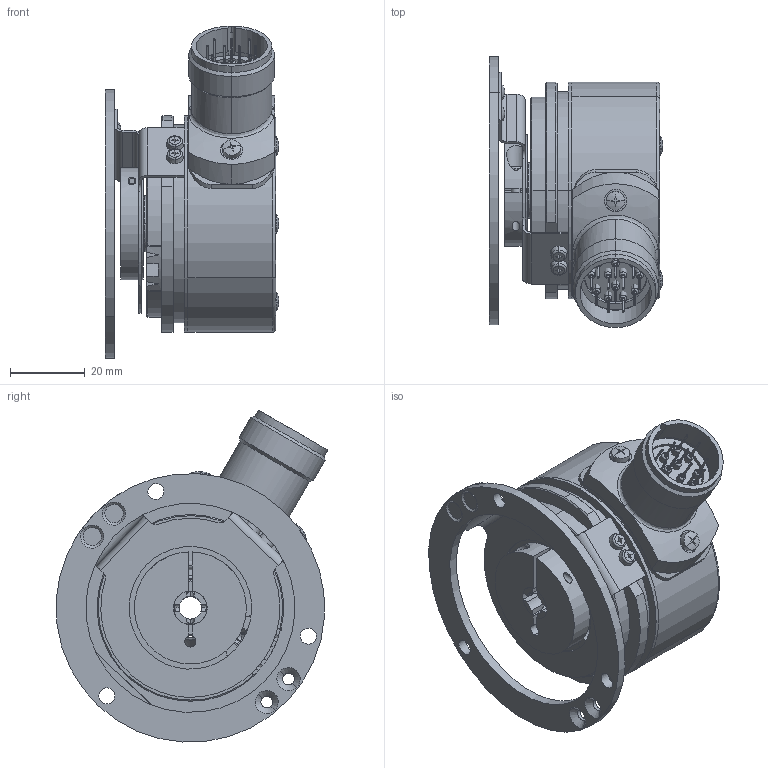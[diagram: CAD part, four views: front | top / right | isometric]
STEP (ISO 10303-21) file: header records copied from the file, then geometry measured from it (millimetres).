
FILE_DESCRIPTION (( 'STEP AP214' ), '1' );
FILE_NAME ('5825.31X2.XXXX.STEP', '2009-06-30T06:46:33', ( 'admin' ), ( 'Fritz Kübler GmbH' ), 'SwSTEP 2.0', 'SolidWorks 2009', '' );
FILE_SCHEMA (( 'AUTOMOTIVE_DESIGN' ));
Length unit declared in the file: millimetre
Products named in the file (1): 5825.31X2.XXXX
Bounding box: 46.58 x 72.74 x 88.94 mm (x, y, z)
Volume: 62925.6 mm3; surface area: 48191.7 mm2
Topology: 33 solids, 33 shells, 980 faces, 2260 edges, 1389 vertices
Faces by surface type: cylinder 438, plane 284, cone 160, torus 52, sphere 42, bspline 4
Entity records: 40575 total; most frequent: CARTESIAN_POINT 6599, DIRECTION 5188, ORIENTED_EDGE 4416, EDGE_CURVE 2208, AXIS2_PLACEMENT_3D 2117, VERTEX_POINT 1389, EDGE_LOOP 1159, CIRCLE 1140
